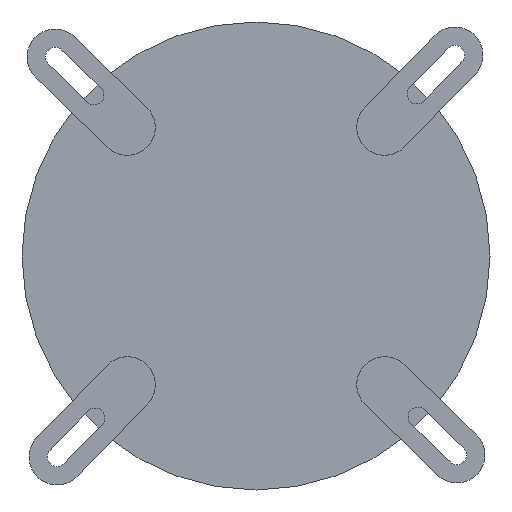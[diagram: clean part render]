
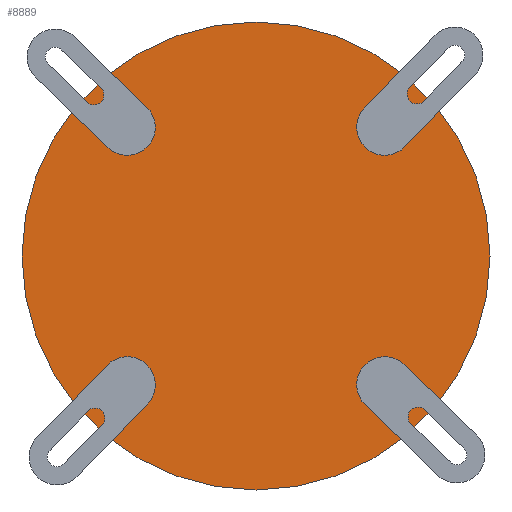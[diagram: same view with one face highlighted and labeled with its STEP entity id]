
A CAD part, front view. The second image highlights one B-rep face of the part: STEP entity #8889.
In plain terms, the highlighted planar face has unit normal (0, -1, 0).
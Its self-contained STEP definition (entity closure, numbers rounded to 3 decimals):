
#607 = EDGE_LOOP ( 'NONE', ( #11379, #4241 ) ) ;
#1147 = VERTEX_POINT ( 'NONE', #15866 ) ;
#1202 = CARTESIAN_POINT ( 'NONE',  ( -83.583, -109.5, 0. ) ) ;
#4241 = ORIENTED_EDGE ( 'NONE', *, *, #12989, .F. ) ;
#4319 = DIRECTION ( 'NONE',  ( 0., 1., 0. ) ) ;
#5693 = PLANE ( 'NONE',  #21278 ) ;
#5710 = AXIS2_PLACEMENT_3D ( 'NONE', #17539, #4319, #19366 ) ;
#8322 = CARTESIAN_POINT ( 'NONE',  ( 0., -109.5, 0. ) ) ;
#8889 = ADVANCED_FACE ( 'NONE', ( #15018 ), #5693, .T. ) ;
#9011 = EDGE_CURVE ( 'NONE', #1147, #15662, #9114, .T. ) ;
#9114 = CIRCLE ( 'NONE', #5710, 83.583 ) ;
#9275 = DIRECTION ( 'NONE',  ( 0., 0., -1. ) ) ;
#10344 = DIRECTION ( 'NONE',  ( 0., 1., 0. ) ) ;
#11379 = ORIENTED_EDGE ( 'NONE', *, *, #9011, .F. ) ;
#12989 = EDGE_CURVE ( 'NONE', #15662, #1147, #16304, .T. ) ;
#15018 = FACE_OUTER_BOUND ( 'NONE', #607, .T. ) ;
#15147 = DIRECTION ( 'NONE',  ( 0., -1., 0. ) ) ;
#15662 = VERTEX_POINT ( 'NONE', #1202 ) ;
#15866 = CARTESIAN_POINT ( 'NONE',  ( 83.583, -109.5, 0. ) ) ;
#16304 = CIRCLE ( 'NONE', #24359, 83.583 ) ;
#17539 = CARTESIAN_POINT ( 'NONE',  ( 0., -109.5, 0. ) ) ;
#19366 = DIRECTION ( 'NONE',  ( 1., 0., 0. ) ) ;
#19852 = DIRECTION ( 'NONE',  ( 1., 0., 0. ) ) ;
#21278 = AXIS2_PLACEMENT_3D ( 'NONE', #22605, #15147, #9275 ) ;
#22605 = CARTESIAN_POINT ( 'NONE',  ( 0., -109.5, 0. ) ) ;
#24359 = AXIS2_PLACEMENT_3D ( 'NONE', #8322, #10344, #19852 ) ;
